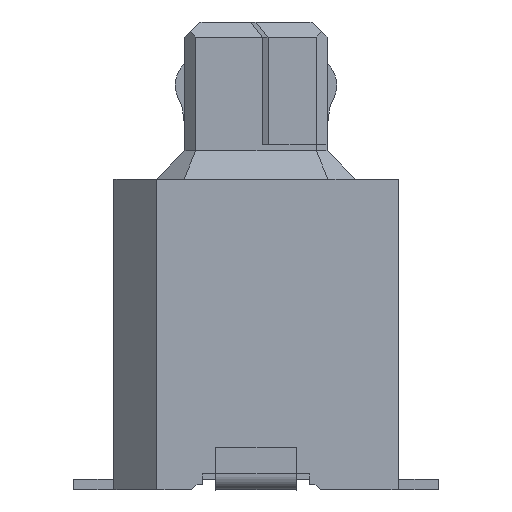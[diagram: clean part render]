
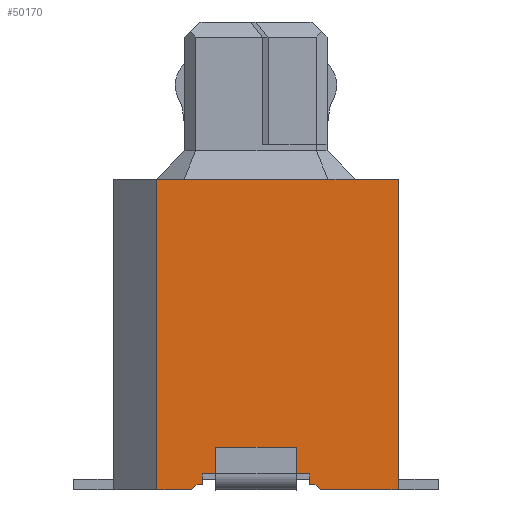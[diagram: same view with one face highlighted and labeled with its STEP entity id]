
A CAD part, left-side view. The second image highlights one B-rep face of the part: STEP entity #50170.
In plain terms, the highlighted planar face has unit normal (-1, 0, 0).
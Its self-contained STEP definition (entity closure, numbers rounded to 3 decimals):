
#45730=CARTESIAN_POINT('',(27.123,-0.191,-5.));
#45740=VERTEX_POINT('',#45730);
#45890=CARTESIAN_POINT('',(27.123,-0.191,
0.8));
#45900=VERTEX_POINT('',#45890);
#45930=CARTESIAN_POINT('',(27.123,-0.191,0.));
#45940=DIRECTION('',(0.,0.,1.));
#45950=VECTOR('',#45940,1.);
#45960=LINE('',#45930,#45950);
#45970=EDGE_CURVE('',#45740,#45900,#45960,.T.);
#47510=CARTESIAN_POINT('',(27.123,0.,-5.));
#47520=DIRECTION('',(0.,1.,0.));
#47530=VECTOR('',#47520,1.);
#47540=LINE('',#47510,#47530);
#47550=CARTESIAN_POINT('',(27.123,-0.841,-5.));
#47560=VERTEX_POINT('',#47550);
#47570=EDGE_CURVE('',#47560,#45740,#47540,.T.);
#49000=CARTESIAN_POINT('',(27.123,-3.241,-5.));
#49010=VERTEX_POINT('',#49000);
#49040=CARTESIAN_POINT('',(27.123,0.,-5.));
#49050=DIRECTION('',(0.,1.,0.));
#49060=VECTOR('',#49050,1.);
#49070=LINE('',#49040,#49060);
#49080=CARTESIAN_POINT('',(27.123,-4.691,-5.));
#49090=VERTEX_POINT('',#49080);
#49100=EDGE_CURVE('',#49090,#49010,#49070,.T.);
#49270=CARTESIAN_POINT('',(27.123,0.,-1.759));
#49280=DIRECTION('',(0.,-0.707,-0.707));
#49290=VECTOR('',#49280,1.);
#49300=LINE('',#49270,#49290);
#49310=CARTESIAN_POINT('',(27.123,-3.141,-4.9));
#49320=VERTEX_POINT('',#49310);
#49330=EDGE_CURVE('',#49320,#49010,#49300,.T.);
#49460=CARTESIAN_POINT('',(27.123,-0.078,-5.145));
#49470=DIRECTION('',(-1.,0.,0.));
#49480=DIRECTION('',(0.,1.,0.));
#49490=AXIS2_PLACEMENT_3D('',#49460,#49470,#49480);
#49500=PLANE('',#49490);
#49510=ORIENTED_EDGE('',*,*,#49100,.F.);
#49520=ORIENTED_EDGE('',*,*,#49330,.T.);
#49530=CARTESIAN_POINT('',(27.123,0.,-4.9));
#49540=DIRECTION('',(0.,1.,0.));
#49550=VECTOR('',#49540,1.);
#49560=LINE('',#49530,#49550);
#49570=CARTESIAN_POINT('',(27.123,-3.041,-4.9));
#49580=VERTEX_POINT('',#49570);
#49590=EDGE_CURVE('',#49320,#49580,#49560,.T.);
#49600=ORIENTED_EDGE('',*,*,#49590,.F.);
#49610=CARTESIAN_POINT('',(27.123,-3.041,0.));
#49620=DIRECTION('',(0.,0.,1.));
#49630=VECTOR('',#49620,1.);
#49640=LINE('',#49610,#49630);
#49650=CARTESIAN_POINT('',(27.123,-3.041,-4.7
));
#49660=VERTEX_POINT('',#49650);
#49670=EDGE_CURVE('',#49580,#49660,#49640,.T.);
#49680=ORIENTED_EDGE('',*,*,#49670,.F.);
#49690=CARTESIAN_POINT('',(27.123,0.,-4.7));
#49700=DIRECTION('',(0.,1.,0.));
#49710=VECTOR('',#49700,1.);
#49720=LINE('',#49690,#49710);
#49730=CARTESIAN_POINT('',(27.123,-1.041,-4.7
));
#49740=VERTEX_POINT('',#49730);
#49750=EDGE_CURVE('',#49660,#49740,#49720,.T.);
#49760=ORIENTED_EDGE('',*,*,#49750,.F.);
#49770=CARTESIAN_POINT('',(27.123,-1.041,0.));
#49780=DIRECTION('',(0.,0.,-1.));
#49790=VECTOR('',#49780,1.);
#49800=LINE('',#49770,#49790);
#49810=CARTESIAN_POINT('',(27.123,-1.041,-4.9));
#49820=VERTEX_POINT('',#49810);
#49830=EDGE_CURVE('',#49740,#49820,#49800,.T.);
#49840=ORIENTED_EDGE('',*,*,#49830,.F.);
#49850=CARTESIAN_POINT('',(27.123,0.,-4.9));
#49860=DIRECTION('',(0.,1.,0.));
#49870=VECTOR('',#49860,1.);
#49880=LINE('',#49850,#49870);
#49890=CARTESIAN_POINT('',(27.123,-0.941,-4.9));
#49900=VERTEX_POINT('',#49890);
#49910=EDGE_CURVE('',#49820,#49900,#49880,.T.);
#49920=ORIENTED_EDGE('',*,*,#49910,.F.);
#49930=CARTESIAN_POINT('',(27.123,0.,-5.841));
#49940=DIRECTION('',(0.,-0.707,0.707));
#49950=VECTOR('',#49940,1.);
#49960=LINE('',#49930,#49950);
#49970=EDGE_CURVE('',#47560,#49900,#49960,.T.);
#49980=ORIENTED_EDGE('',*,*,#49970,.T.);
#49990=ORIENTED_EDGE('',*,*,#47570,.F.);
#50000=ORIENTED_EDGE('',*,*,#45970,.F.);
#50010=CARTESIAN_POINT('',(27.123,0.,0.8));
#50020=DIRECTION('',(0.,-1.,0.));
#50030=VECTOR('',#50020,1.);
#50040=LINE('',#50010,#50030);
#50050=CARTESIAN_POINT('',(27.123,-4.691,0.8
));
#50060=VERTEX_POINT('',#50050);
#50070=EDGE_CURVE('',#45900,#50060,#50040,.T.);
#50080=ORIENTED_EDGE('',*,*,#50070,.F.);
#50090=CARTESIAN_POINT('',(27.123,-4.691,0.));
#50100=DIRECTION('',(0.,0.,-1.));
#50110=VECTOR('',#50100,1.);
#50120=LINE('',#50090,#50110);
#50130=EDGE_CURVE('',#50060,#49090,#50120,.T.);
#50140=ORIENTED_EDGE('',*,*,#50130,.F.);
#50150=EDGE_LOOP('',(#50140,#50080,#50000,#49990,#49980,#49920,#49840,
#49760,#49680,#49600,#49520,#49510));
#50160=FACE_OUTER_BOUND('',#50150,.T.);
#50170=ADVANCED_FACE('',(#50160),#49500,.T.);
